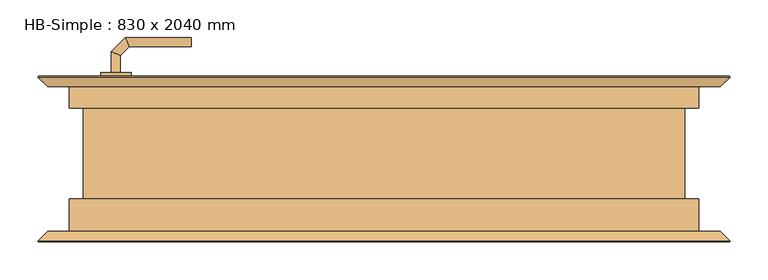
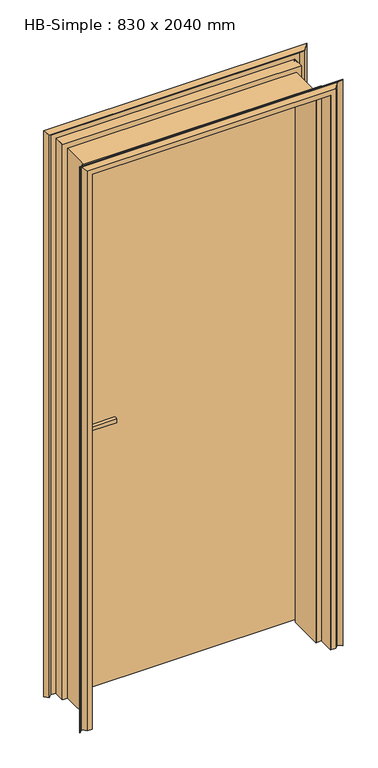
"""IFC4 building model written with IfcOpenShell, lengths in millimetres: door geometry, HB-Simple : 830 x 2040 mm."""

from ifc_helpers import new_model, si_unit, point, frame, frame_2d, origin, place, context, project, spatial, polyline, circle_curve, ellipse_curve, trimmed, segment, composite_curve, outline, extrude, faceted_brep, source, transform, mapped, element, save
from ifc_brep_helpers import plane_surface, cylinder_surface, advanced_brep


def hb_simple_830_x_2040_mm_bda9ad2a(model_context):
    return source(origin(), model_context, "Body", "SolidModel", [
        advanced_brep(
        [(-349.0, 65.0, 993.0), (-361.0, 65.0, 993.0), (-361.0, 65.0, 1007.0), (-349.0, 65.0, 1007.0), (-349.0, 42.5147955, 1007.0), (-349.0, 42.5147955, 993.0), (-361.0, 37.5442327, 1007.0), (-361.0, 37.5442327, 993.0), (-337.5147186, 31.0295141, 1007.0), (-337.5147186, 31.0295141, 993.0), (-342.4852814, 19.0295141, 1007.0), (-342.4852814, 19.0295141, 993.0), (-254.9542163, 31.0295141, 993.0), (-254.9542163, 31.0295141, 1007.0), (-254.9542163, 19.0295141, 1007.0), (-254.9542163, 19.0295141, 993.0)],
        [
            (0, 1, circle_curve(frame((-355.0, 65.0, 1013.0457722), z_axis=(0.0, 1.0, 0.0), x_axis=(-1.0, 0.0, 0.0)), 20.9244589)),
            (1, 2),
            (2, 3, circle_curve(frame((-355.0, 65.0, 986.9542278), z_axis=(0.0, 1.0, 0.0), x_axis=(-1.0, 0.0, 0.0)), 20.9244589)),
            (3, 0),
            (3, 4),
            (4, 5),
            (5, 0),
            (2, 6),
            (6, 4, ellipse_curve(frame((-355.0, 40.0295141, 986.9542278), z_axis=(-0.38268343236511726, 0.9238795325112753, 0.0), x_axis=(0.9238795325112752, 0.38268343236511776, 0.0)), 22.6484711, 20.9244589)),
            (1, 7),
            (7, 6),
            (5, 7, ellipse_curve(frame((-355.0, 40.0295141, 1013.0457722), z_axis=(-0.38268343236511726, 0.9238795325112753, 0.0), x_axis=(0.9238795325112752, 0.38268343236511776, 0.0)), 22.6484711, 20.9244589)),
            (4, 8),
            (8, 9),
            (9, 5),
            (6, 10),
            (10, 8, ellipse_curve(frame((-340.0, 25.0295141, 986.9542278), z_axis=(-0.9238795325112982, 0.38268343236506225, 0.0), x_axis=(0.3826834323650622, 0.9238795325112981, 0.0)), 22.6484711, 20.9244589)),
            (7, 11),
            (11, 10),
            (9, 11, ellipse_curve(frame((-340.0, 25.0295141, 1013.0457722), z_axis=(-0.9238795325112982, 0.38268343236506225, 0.0), x_axis=(0.3826834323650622, 0.9238795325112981, 0.0)), 22.6484711, 20.9244589)),
            (12, 13),
            (13, 14, circle_curve(frame((-254.9542163, 25.0295141, 986.9542278), z_axis=(1.0, 0.0, 0.0), x_axis=(0.0, -1.0, 0.0)), 20.9244589)),
            (14, 15),
            (15, 12, circle_curve(frame((-254.9542163, 25.0295141, 1013.0457722), z_axis=(1.0, 0.0, 0.0), x_axis=(0.0, -1.0, 0.0)), 20.9244589)),
            (8, 13),
            (12, 9),
            (10, 14),
            (11, 15),
        ],
        [
            plane_surface(frame((-364.2195445, 65.0, 1000.0), z_axis=(0.0, 1.0, 0.0), x_axis=(0.0, 0.0, 1.0))),
            plane_surface(frame((-349.0, 65.0, 993.0), z_axis=(1.0, 0.0, 0.0), x_axis=(0.0, -1.0, 0.0))),
            cylinder_surface(frame((-355.0, 65.0, 986.9542278), z_axis=(0.0, 1.0, 0.0), x_axis=(-1.0, 0.0, 0.0)), 20.9244589),
            plane_surface(frame((-361.0, 65.0, 1007.0), z_axis=(-1.0, 0.0, 0.0), x_axis=(0.0, -1.0, 0.0))),
            cylinder_surface(frame((-355.0, 65.0, 1013.0457722), z_axis=(0.0, 1.0, 0.0), x_axis=(-1.0, 0.0, 0.0)), 20.9244589),
            plane_surface(frame((-349.0, 42.5147955, 993.0), z_axis=(0.7071067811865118, 0.7071067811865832, 0.0), x_axis=(0.7071067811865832, -0.7071067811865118, 0.0))),
            cylinder_surface(frame((-355.0, 40.0295141, 986.9542278), z_axis=(-0.7071067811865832, 0.7071067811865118, 0.0), x_axis=(-0.7071067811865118, -0.7071067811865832, 0.0)), 20.9244589),
            plane_surface(frame((-361.0, 37.5442327, 1007.0), z_axis=(-0.7071067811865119, -0.7071067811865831, 0.0), x_axis=(0.7071067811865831, -0.7071067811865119, 0.0))),
            cylinder_surface(frame((-355.0, 40.0295141, 1013.0457722), z_axis=(-0.7071067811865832, 0.7071067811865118, 0.0), x_axis=(-0.7071067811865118, -0.7071067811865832, 0.0)), 20.9244589),
            plane_surface(frame((-254.9542163, 25.0295141, 990.7804555), z_axis=(1.0, 0.0, 0.0), x_axis=(0.0, -1.0, 0.0))),
            plane_surface(frame((-337.5147186, 31.0295141, 993.0), z_axis=(0.0, 1.0, 0.0), x_axis=(1.0, 0.0, 0.0))),
            cylinder_surface(frame((-340.0, 25.0295141, 986.9542278), z_axis=(-1.0, 0.0, 0.0), x_axis=(0.0, -1.0, 0.0)), 20.9244589),
            plane_surface(frame((-342.4852814, 19.0295141, 1007.0), z_axis=(0.0, -1.0, 0.0), x_axis=(1.0, 0.0, 0.0))),
            cylinder_surface(frame((-340.0, 25.0295141, 1013.0457722), z_axis=(-1.0, 0.0, 0.0), x_axis=(0.0, -1.0, 0.0)), 20.9244589),
        ],
        [
            (0, [[1, 2, 3, 4]]),
            (1, [[5, 6, 7, -4]]),
            (2, [[8, 9, -5, -3]]),
            (3, [[10, 11, -8, -2]]),
            (4, [[-7, 12, -10, -1]]),
            (5, [[13, 14, 15, -6]]),
            (6, [[16, 17, -13, -9]]),
            (7, [[18, 19, -16, -11]]),
            (8, [[-15, 20, -18, -12]]),
            (9, [[21, 22, 23, 24]]),
            (10, [[25, -21, 26, -14]]),
            (11, [[27, -22, -25, -17]]),
            (12, [[28, -23, -27, -19]]),
            (13, [[-26, -24, -28, -20]]),
        ],
    ),
        advanced_brep(
        [(-361.0, 115.0, 1007.0), (-361.0, 115.0, 993.0), (-349.0, 115.0, 993.0), (-349.0, 115.0, 1007.0), (-349.0, 137.680388, 1007.0), (-361.0, 142.6509507, 1007.0), (-349.0, 137.680388, 993.0), (-361.0, 142.6509507, 993.0), (-337.6522273, 149.0281607, 1007.0), (-342.62279, 161.0281607, 1007.0), (-337.6522273, 149.0281607, 993.0), (-342.62279, 161.0281607, 993.0), (-254.9813594, 161.0281607, 1007.0), (-254.9813594, 149.0281607, 1007.0), (-254.9813594, 149.0281607, 993.0), (-254.9813594, 161.0281607, 993.0)],
        [
            (0, 1),
            (1, 2, circle_curve(frame((-355.0, 115.0, 1013.0457722), z_axis=(0.0, -1.0, 0.0), x_axis=(1.0, 0.0, 0.0)), 20.9244589)),
            (2, 3),
            (3, 0, circle_curve(frame((-355.0, 115.0, 986.9542278), z_axis=(0.0, -1.0, 0.0), x_axis=(1.0, 0.0, 0.0)), 20.9244589)),
            (3, 4),
            (4, 5, ellipse_curve(frame((-355.0, 140.1656693, 986.9542278), z_axis=(-0.3826834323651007, -0.9238795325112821, 0.0), x_axis=(0.9238795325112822, -0.3826834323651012, 0.0)), 22.6484711, 20.9244589)),
            (5, 0),
            (2, 6),
            (6, 4),
            (1, 7),
            (7, 6, ellipse_curve(frame((-355.0, 140.1656693, 1013.0457722), z_axis=(-0.3826834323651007, -0.9238795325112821, 0.0), x_axis=(0.9238795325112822, -0.3826834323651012, 0.0)), 22.6484711, 20.9244589)),
            (5, 7),
            (4, 8),
            (8, 9, ellipse_curve(frame((-340.1375086, 155.0281607, 986.9542278), z_axis=(-0.9238795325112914, -0.3826834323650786, 0.0), x_axis=(0.38268343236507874, -0.9238795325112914, 0.0)), 22.6484711, 20.9244589)),
            (9, 5),
            (6, 10),
            (10, 8),
            (7, 11),
            (11, 10, ellipse_curve(frame((-340.1375086, 155.0281607, 1013.0457722), z_axis=(-0.9238795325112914, -0.3826834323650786, 0.0), x_axis=(0.38268343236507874, -0.9238795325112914, 0.0)), 22.6484711, 20.9244589)),
            (9, 11),
            (12, 13, circle_curve(frame((-254.9813594, 155.0281607, 986.9542278), z_axis=(1.0, 0.0, 0.0), x_axis=(0.0, -1.0, 0.0)), 20.9244589)),
            (13, 14),
            (14, 15, circle_curve(frame((-254.9813594, 155.0281607, 1013.0457722), z_axis=(1.0, 0.0, 0.0), x_axis=(0.0, -1.0, 0.0)), 20.9244589)),
            (15, 12),
            (8, 13),
            (12, 9),
            (10, 14),
            (11, 15),
        ],
        [
            plane_surface(frame((-364.2195445, 115.0, 1000.0), z_axis=(0.0, -1.0, 0.0), x_axis=(0.0, 0.0, -1.0))),
            cylinder_surface(frame((-355.0, 115.0, 986.9542278), z_axis=(0.0, -1.0, 0.0), x_axis=(1.0, 0.0, 0.0)), 20.9244589),
            plane_surface(frame((-349.0, 115.0, 1007.0), z_axis=(1.0, 0.0, 0.0), x_axis=(0.0, 1.0, 0.0))),
            cylinder_surface(frame((-355.0, 115.0, 1013.0457722), z_axis=(0.0, -1.0, 0.0), x_axis=(1.0, 0.0, 0.0)), 20.9244589),
            plane_surface(frame((-361.0, 115.0, 993.0), z_axis=(-1.0, 0.0, 0.0), x_axis=(0.0, 1.0, 0.0))),
            cylinder_surface(frame((-355.0, 140.1656693, 986.9542278), z_axis=(-0.7071067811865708, -0.7071067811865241, 0.0), x_axis=(0.7071067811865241, -0.7071067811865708, 0.0)), 20.9244589),
            plane_surface(frame((-349.0, 137.680388, 1007.0), z_axis=(0.7071067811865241, -0.7071067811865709, 0.0), x_axis=(0.7071067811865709, 0.7071067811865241, 0.0))),
            cylinder_surface(frame((-355.0, 140.1656693, 1013.0457722), z_axis=(-0.7071067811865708, -0.7071067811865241, 0.0), x_axis=(0.7071067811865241, -0.7071067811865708, 0.0)), 20.9244589),
            plane_surface(frame((-361.0, 142.6509507, 993.0), z_axis=(-0.7071067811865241, 0.7071067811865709, 0.0), x_axis=(0.7071067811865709, 0.7071067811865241, 0.0))),
            plane_surface(frame((-254.9813594, 155.0281607, 990.7804555), z_axis=(1.0, 0.0, 0.0), x_axis=(0.0, -1.0, 0.0))),
            cylinder_surface(frame((-340.1375086, 155.0281607, 986.9542278), z_axis=(-1.0, 0.0, 0.0), x_axis=(0.0, -1.0, 0.0)), 20.9244589),
            plane_surface(frame((-337.6522273, 149.0281607, 1007.0), z_axis=(0.0, -1.0, 0.0), x_axis=(1.0, 0.0, 0.0))),
            cylinder_surface(frame((-340.1375086, 155.0281607, 1013.0457722), z_axis=(-1.0, 0.0, 0.0), x_axis=(0.0, -1.0, 0.0)), 20.9244589),
            plane_surface(frame((-342.62279, 161.0281607, 993.0), z_axis=(0.0, 1.0, 0.0), x_axis=(1.0, 0.0, 0.0))),
        ],
        [
            (0, [[1, 2, 3, 4]]),
            (1, [[5, 6, 7, -4]]),
            (2, [[8, 9, -5, -3]]),
            (3, [[10, 11, -8, -2]]),
            (4, [[-7, 12, -10, -1]]),
            (5, [[13, 14, 15, -6]]),
            (6, [[16, 17, -13, -9]]),
            (7, [[18, 19, -16, -11]]),
            (8, [[-15, 20, -18, -12]]),
            (9, [[21, 22, 23, 24]]),
            (10, [[25, -21, 26, -14]]),
            (11, [[27, -22, -25, -17]]),
            (12, [[28, -23, -27, -19]]),
            (13, [[-26, -24, -28, -20]]),
        ],
    ),
        extrude(outline(composite_curve([segment(trimmed(circle_curve(frame_2d((1045.3589838, -355.0)), 40.0), [point((1080.0, -335.0))], [point((1080.0, -375.0))], False, "CARTESIAN"), True, "CONTINUOUS"), segment(polyline([(1080.0, -375.0), (870.0, -375.0)]), True, "CONTINUOUS"), segment(trimmed(circle_curve(frame_2d((904.6410162, -355.0)), 40.0), [point((870.0, -375.0))], [point((870.0, -335.0))], False, "CARTESIAN"), True, "CONTINUOUS"), segment(polyline([(870.0, -335.0), (1080.0, -335.0)]), True, "CONTINUOUS")], self_intersect=False)), frame((0.0, 65.0, 0.0), z_axis=(0.0, 1.0, 0.0), x_axis=(0.0, 0.0, 1.0)), (0.0, 0.0, 1.0), 5.0),
        extrude(outline(composite_curve([segment(trimmed(circle_curve(frame_2d((904.6410162, -355.0)), 40.0), [point((870.0, -375.0))], [point((870.0, -335.0))], False, "CARTESIAN"), True, "CONTINUOUS"), segment(polyline([(870.0, -335.0), (1080.0, -335.0)]), True, "CONTINUOUS"), segment(trimmed(circle_curve(frame_2d((1045.3589838, -355.0)), 40.0), [point((1080.0, -335.0))], [point((1080.0, -375.0))], False, "CARTESIAN"), True, "CONTINUOUS"), segment(polyline([(1080.0, -375.0), (870.0, -375.0)]), True, "CONTINUOUS")], self_intersect=False)), frame((0.0, 110.0, 0.0), z_axis=(0.0, 1.0, 0.0), x_axis=(0.0, 0.0, 1.0)), (0.0, 0.0, 1.0), 5.0),
        extrude(outline(polyline([(-415.0, 70.0), (-415.0, 110.0), (415.0, 110.0), (415.0, 70.0), (-415.0, 70.0)])), frame((0.0, 0.0, 10.0), z_axis=(0.0, 0.0, 1.0), x_axis=(1.0, 0.0, 0.0)), (0.0, 0.0, 1.0), 2030.0),
        faceted_brep([(433.5, 110.0, 0.0), (445.5, 98.0, 0.0), (457.5, 110.0, 0.0), (458.5, 109.0, 0.0), (445.5, 96.0, 0.0), (433.5, 108.0, 0.0), (416.5, 108.0, 0.0), (416.5, 68.0, 0.0), (398.5, 68.0, 0.0), (398.5, -53.0, 0.0), (416.5, -53.0, 0.0), (416.5, -108.0, 0.0), (433.5, -108.0, 0.0), (445.5, -96.0, 0.0), (458.5, -109.0, 0.0), (457.5, -110.0, 0.0), (445.5, -98.0, 0.0), (433.5, -110.0, 0.0), (415.5794979, -110.0, 0.0), (415.0, -108.9205021, 0.0), (415.0, -55.0, 0.0), (397.4545286, -55.0, 0.0), (396.5, -54.0454714, 0.0), (396.5, 68.9813626, 0.0), (397.5186374, 70.0, 0.0), (415.0, 70.0, 0.0), (415.0, 108.9798135, 0.0), (415.5201865, 110.0, 0.0), (415.5201865, 110.0, 2040.5201865), (-415.5201865, 110.0, 2040.5201865), (-415.5201865, 110.0, 0.0), (-433.5, 110.0, 0.0), (-433.5, 110.0, 2058.5), (433.5, 110.0, 2058.5), (415.0, 108.9798135, 2040.0), (415.0, 70.0, 2040.0), (397.5186374, 70.0, 2022.5186374), (-397.5186374, 70.0, 2022.5186374), (-397.5186374, 70.0, 0.0), (-415.0, 70.0, 0.0), (-415.0, 70.0, 2040.0), (396.5, 68.9813626, 2021.5), (396.5, -54.0454714, 2021.5), (397.4545286, -55.0, 2022.4545286), (415.0, -55.0, 2040.0), (-415.0, -55.0, 2040.0), (-415.0, -55.0, 0.0), (-397.4545286, -55.0, 0.0), (-397.4545286, -55.0, 2022.4545286), (415.0, -108.9205021, 2040.0), (415.5794979, -110.0, 2040.5794979), (433.5, -110.0, 2058.5), (-433.5, -110.0, 2058.5), (-433.5, -110.0, 0.0), (-415.5794979, -110.0, 0.0), (-415.5794979, -110.0, 2040.5794979), (445.5, -98.0, 2070.5), (457.5, -110.0, 2082.5), (458.5, -109.0, 2083.5), (445.5, -96.0, 2070.5), (433.5, -108.0, 2058.5), (416.5, -108.0, 2041.5), (-416.5, -108.0, 2041.5), (-416.5, -108.0, 0.0), (-433.5, -108.0, 0.0), (-433.5, -108.0, 2058.5), (416.5, -53.0, 2041.5), (398.5, -53.0, 2023.5), (-398.5, -53.0, 2023.5), (-398.5, -53.0, 0.0), (-416.5, -53.0, 0.0), (-416.5, -53.0, 2041.5), (398.5, 68.0, 2023.5), (416.5, 68.0, 2041.5), (-416.5, 68.0, 2041.5), (-416.5, 68.0, 0.0), (-398.5, 68.0, 0.0), (-398.5, 68.0, 2023.5), (416.5, 108.0, 2041.5), (433.5, 108.0, 2058.5), (-433.5, 108.0, 2058.5), (-433.5, 108.0, 0.0), (-416.5, 108.0, 0.0), (-416.5, 108.0, 2041.5), (445.5, 96.0, 2070.5), (458.5, 109.0, 2083.5), (457.5, 110.0, 2082.5), (445.5, 98.0, 2070.5), (-415.0, 108.9798135, 0.0), (-396.5, 68.9813626, 0.0), (-396.5, -54.0454714, 0.0), (-415.0, -108.9205021, 0.0), (-445.5, -98.0, 0.0), (-457.5, -110.0, 0.0), (-458.5, -109.0, 0.0), (-445.5, -96.0, 0.0), (-445.5, 96.0, 0.0), (-458.5, 109.0, 0.0), (-457.5, 110.0, 0.0), (-445.5, 98.0, 0.0), (-445.5, 98.0, 2070.5), (-457.5, 110.0, 2082.5), (-458.5, 109.0, 2083.5), (-445.5, 96.0, 2070.5), (-445.5, -96.0, 2070.5), (-458.5, -109.0, 2083.5), (-457.5, -110.0, 2082.5), (-445.5, -98.0, 2070.5), (-415.0, -108.9205021, 2040.0), (-396.5, -54.0454714, 2021.5), (-396.5, 68.9813626, 2021.5), (-415.0, 108.9798135, 2040.0)], [[[0, 1, 2, 3, 4, 5, 6, 7, 8, 9, 10, 11, 12, 13, 14, 15, 16, 17, 18, 19, 20, 21, 22, 23, 24, 25, 26, 27]], [[27, 28, 29, 30, 31, 32, 33, 0]], [[26, 34, 28, 27]], [[25, 35, 34, 26]], [[24, 36, 37, 38, 39, 40, 35, 25]], [[23, 41, 36, 24]], [[22, 42, 41, 23]], [[21, 43, 42, 22]], [[20, 44, 45, 46, 47, 48, 43, 21]], [[19, 49, 44, 20]], [[18, 50, 49, 19]], [[17, 51, 52, 53, 54, 55, 50, 18]], [[16, 56, 51, 17]], [[15, 57, 56, 16]], [[14, 58, 57, 15]], [[13, 59, 58, 14]], [[12, 60, 59, 13]], [[11, 61, 62, 63, 64, 65, 60, 12]], [[10, 66, 61, 11]], [[9, 67, 68, 69, 70, 71, 66, 10]], [[8, 72, 67, 9]], [[7, 73, 74, 75, 76, 77, 72, 8]], [[6, 78, 73, 7]], [[5, 79, 80, 81, 82, 83, 78, 6]], [[4, 84, 79, 5]], [[3, 85, 84, 4]], [[2, 86, 85, 3]], [[1, 87, 86, 2]], [[0, 33, 87, 1]], [[31, 30, 88, 39, 38, 89, 90, 47, 46, 91, 54, 53, 92, 93, 94, 95, 64, 63, 70, 69, 76, 75, 82, 81, 96, 97, 98, 99]], [[32, 31, 99, 100]], [[100, 99, 98, 101]], [[101, 98, 97, 102]], [[102, 97, 96, 103]], [[103, 96, 81, 80]], [[83, 82, 75, 74]], [[77, 76, 69, 68]], [[71, 70, 63, 62]], [[65, 64, 95, 104]], [[104, 95, 94, 105]], [[105, 94, 93, 106]], [[106, 93, 92, 107]], [[107, 92, 53, 52]], [[55, 54, 91, 108]], [[108, 91, 46, 45]], [[48, 47, 90, 109]], [[109, 90, 89, 110]], [[110, 89, 38, 37]], [[40, 39, 88, 111]], [[111, 88, 30, 29]], [[35, 40, 111, 34]], [[42, 109, 110, 41]], [[49, 108, 45, 44]], [[66, 71, 62, 61]], [[72, 77, 68, 67]], [[78, 83, 74, 73]], [[34, 111, 29, 28]], [[41, 110, 37, 36]], [[43, 48, 109, 42]], [[50, 55, 108, 49]], [[56, 107, 52, 51]], [[57, 106, 107, 56]], [[58, 105, 106, 57]], [[59, 104, 105, 58]], [[60, 65, 104, 59]], [[84, 103, 80, 79]], [[85, 102, 103, 84]], [[86, 101, 102, 85]], [[87, 100, 101, 86]], [[33, 32, 100, 87]]]),
    ])


if __name__ == "__main__":
    model = new_model("IFC4")
    model_context = context("Model", 3, world=origin())
    ifc_project = project(units=[si_unit("LENGTHUNIT", "METRE", prefix="MILLI")], contexts=[model_context])
    site = spatial("IfcSite", under=ifc_project)
    building = spatial("IfcBuilding", under=site)
    placement = place(None, origin())
    hb_simple_830_x_2040_mm_shape = hb_simple_830_x_2040_mm_bda9ad2a(model_context)
    element("IfcDoor", 1, ObjectType="HB-Simple : 830 x 2040 mm", at=placement, inside=building, context=model_context, shape_type="MappedRepresentation", body=[
        mapped(hb_simple_830_x_2040_mm_shape, transform((0.0, 0.0, 0.0), x_axis=(1.0, 0.0, 0.0), y_axis=(0.0, 1.0, 0.0), z_axis=(0.0, 0.0, 1.0))),
    ])
    save(model, "model.ifc")
